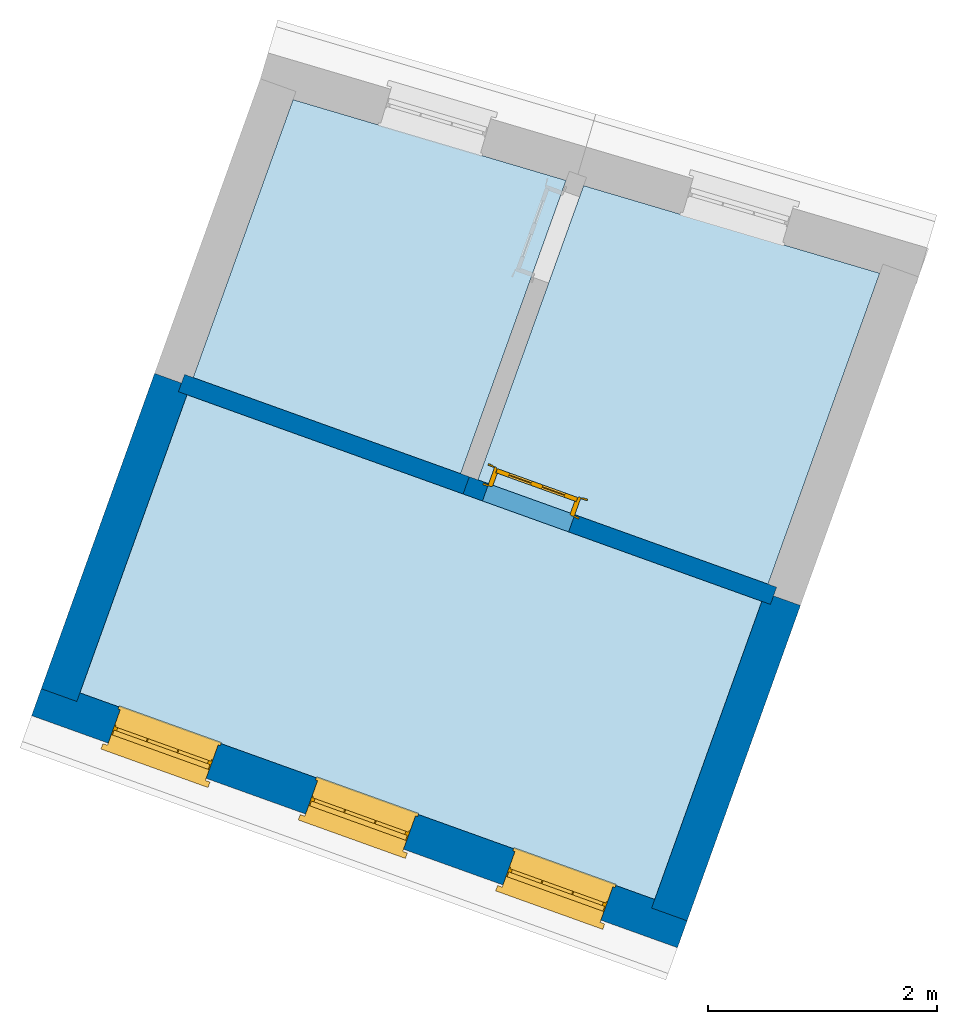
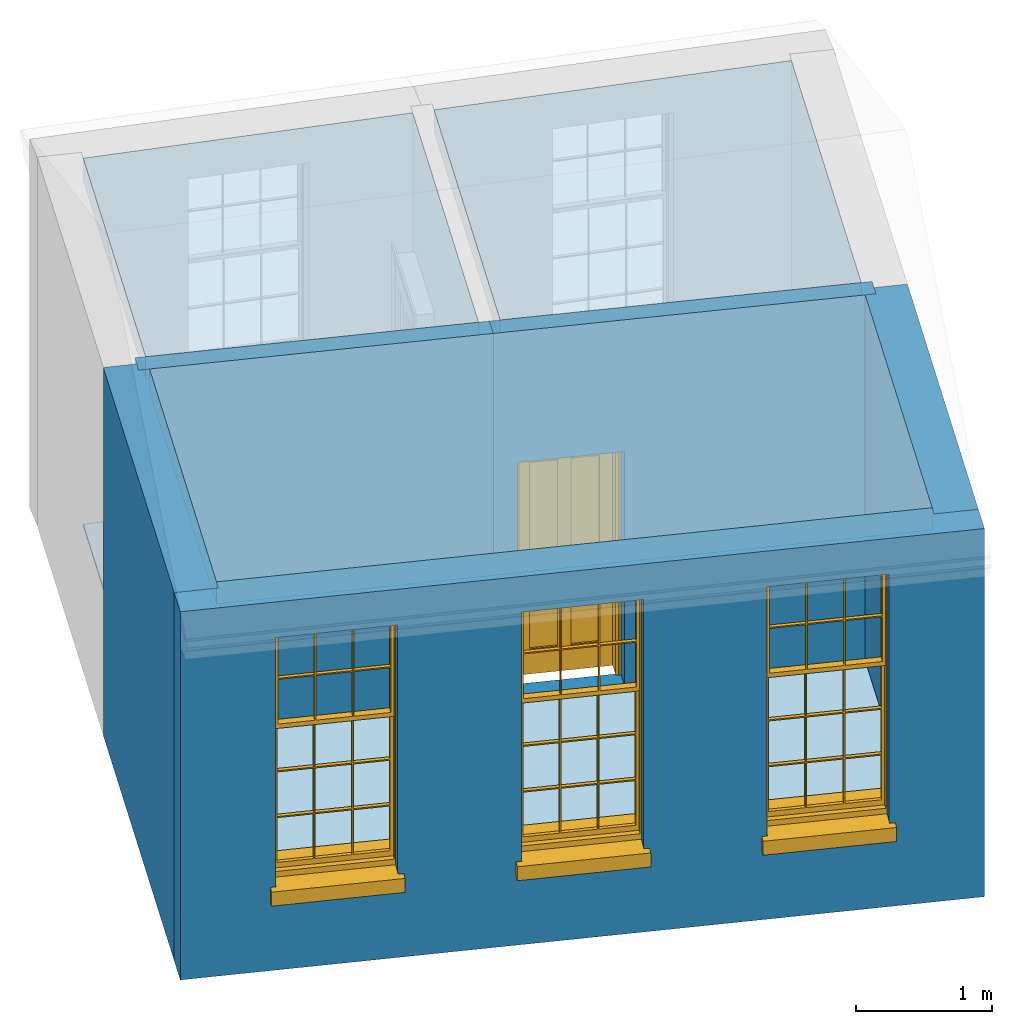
# One storey, part 1 of 3: 5 slabs, 5 walls, 3 windows, 1 door, 4 openings.
"""IFC4 building model written with IfcOpenShell, lengths in metres."""

from ifc_helpers import new_model, si_unit, frame, origin, origin_with_axes, place, context, subcontext, project, spatial, polyline, outline, extrude, faceted_brep, source, transform, mapped, material, layer, layer_set, layer_usage, type_object, type_shapes, element, fill, save


model = new_model("IFC4")

# Units and contexts
model_context = context("Model", 3, world=origin_with_axes())
body_context = subcontext(model_context, "Body", "Model", "MODEL_VIEW")
ifc_project = project(units=[si_unit("PLANEANGLEUNIT", "RADIAN"), si_unit("MASSUNIT", "GRAM", prefix="KILO"), si_unit("FORCEUNIT", "NEWTON", prefix="KILO"), si_unit("LENGTHUNIT", "METRE"), si_unit("AREAUNIT", "SQUARE_METRE"), si_unit("VOLUMEUNIT", "CUBIC_METRE")], contexts=[model_context, model_context])

# Sites, building, storey
site_1_placement = place(None, origin_with_axes())
site_1 = spatial("IfcSite", under=ifc_project, at=site_1_placement, Name="Tamar")
site_2_placement = place(site_1_placement, origin_with_axes())
site_2 = spatial("IfcSite", under=site_1, at=site_2_placement, Name="Site plot-24", CompositionType="ELEMENT")
building_placement = place(None, origin_with_axes())
building = spatial("IfcBuilding", under=site_2, at=building_placement, Name="Building plot-24", CompositionType="ELEMENT")
storey_placement = place(None, frame((0.0, 0.0, 32.0), z_axis=(0.0, 0.0, 1.0), x_axis=(1.0, 0.0, 0.0)))
storey = spatial("IfcBuildingStorey", under=building, at=storey_placement, Name="plot-24 2", CompositionType="ELEMENT", Elevation=32.0)

# Slabs
slab_1_placement = place(storey_placement, frame((272.596512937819, 277.129814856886, 3.1)))
element("IfcSlab", 1, at=slab_1_placement, inside=storey, Name="My Slab", ObjectType="Slab", PredefinedType="FLOOR", context=body_context, shape_type="SweptSolid", body=[
    extrude(outline(polyline([(0.0, 0.0), (2.53637243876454, -0.911403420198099), (3.51288097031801, 1.80615202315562), (0.924257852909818, 2.57214543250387), (0.0, 0.0)])), origin_with_axes(), (0.0, 0.0, 1.0), 0.2),
])
slab_2_placement = place(storey_placement, frame((272.445938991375, 277.183921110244, 3.1)))
element("IfcSlab", 2, at=slab_2_placement, inside=storey, Name="My Slab", ObjectType="Slab", PredefinedType="FLOOR", context=body_context, shape_type="SweptSolid", body=[
    extrude(outline(polyline([(0.0, 0.0), (0.921155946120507, 2.56351304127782), (-1.46547668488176, 3.26973591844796), (-2.33845907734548, 0.840286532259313), (0.0, 0.0)])), origin_with_axes(), (0.0, 0.0, 1.0), 0.2),
])
slab_3_placement = place(storey_placement, frame((272.445938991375, 277.183921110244, 0.0)))
element("IfcSlab", 3, at=slab_3_placement, inside=storey, Name="My Slab", ObjectType="Slab", PredefinedType="FLOOR", context=body_context, shape_type="SweptSolid", body=[
    extrude(outline(polyline([(0.0, 0.0), (0.921155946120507, 2.56351304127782), (-1.46547668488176, 3.26973591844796), (-2.33845907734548, 0.840286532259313), (0.0, 0.0)])), origin_with_axes(), (0.0, 0.0, 1.0), 0.02),
])
slab_4_placement = place(storey_placement, frame((269.11697327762, 275.26769644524, 3.1)))
element("IfcSlab", 4, at=slab_4_placement, inside=storey, Name="My Slab", ObjectType="Slab", PredefinedType="FLOOR", context=body_context, shape_type="SweptSolid", body=[
    extrude(outline(polyline([(0.0, 0.0), (5.02540546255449, -1.80579620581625), (5.96180584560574, 0.800141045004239), (0.93640038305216, 2.60593725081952), (0.0, 0.0)])), origin_with_axes(), (0.0, 0.0, 1.0), 0.2),
])
slab_5_placement = place(storey_placement, frame((269.11697327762, 275.26769644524, 0.0)))
element("IfcSlab", 5, at=slab_5_placement, inside=storey, Name="My Slab", ObjectType="Slab", PredefinedType="FLOOR", context=body_context, shape_type="SweptSolid", body=[
    extrude(outline(polyline([(0.0, 0.0), (5.02540546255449, -1.80579620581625), (5.96180584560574, 0.800141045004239), (0.93640038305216, 2.60593725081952), (0.0, 0.0)])), origin_with_axes(), (0.0, 0.0, 1.0), 0.02),
])

# Wall, openings, windows
ifc_material_1 = material(Name="Masonry")
ifc_layer_1 = layer(ifc_material_1, 0.33, ventilated=False)
ifc_layer_set_1 = layer_set([ifc_layer_1], Name="exterior_0.08_0.25")
ifc_layer_usage_1 = layer_usage(ifc_layer_set_1, "AXIS2", "POSITIVE", -0.25)
wall_type_1 = type_object("IfcWallType", Name="exterior_0.08_0.25", PredefinedType="SOLIDWALL", material=ifc_layer_set_1)
wall_1_placement = place(storey_placement, frame((269.014633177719, 275.219462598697, 0.0), z_axis=(0.0, 0.0, 1.0), x_axis=(0.941087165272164, -0.338164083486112, 0.0)))
wall_1 = element("IfcWall", 6, at=wall_1_placement, inside=storey, type_object=wall_type_1, material=ifc_layer_usage_1, Name="exterior", context=body_context, shape_type="SweptSolid", body=[
    extrude(outline(polyline([(-0.250000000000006, 0.0799999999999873), (-0.250000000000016, -0.249999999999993), (5.75000000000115, -0.250000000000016), (5.75000000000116, 0.079999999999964), (-0.250000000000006, 0.0799999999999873)])), origin_with_axes(), (0.0, 0.0, 1.0), 3.3),
])
opening_1_placement = place(wall_1_placement, frame((0.461666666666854, 0.0, 0.75)))
opening_1 = element("IfcOpeningElement", 7, at=opening_1_placement, cuts=wall_1, Name="My Opening", ObjectType="Opening", context=body_context, shape_type="SweptSolid", body=[
    extrude(outline(polyline([(0.0, -0.270000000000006), (0.910000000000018, -0.27000000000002), (0.910000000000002, 1.1), (-1.5931700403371e-14, 1.10000000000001), (0.0, -0.270000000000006)])), origin_with_axes(), (0.0, 0.0, 1.0), 2.23),
])
opening_2_placement = place(wall_1_placement, frame((2.2950000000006, 0.0, 0.75)))
opening_2 = element("IfcOpeningElement", 8, at=opening_2_placement, cuts=wall_1, Name="My Opening", ObjectType="Opening", context=body_context, shape_type="SweptSolid", body=[
    extrude(outline(polyline([(0.0, -0.270000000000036), (0.909999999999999, -0.269999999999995), (0.909999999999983, 1.10000000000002), (-1.59872115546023e-14, 1.09999999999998), (0.0, -0.270000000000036)])), origin_with_axes(), (0.0, 0.0, 1.0), 2.23),
])
opening_3_placement = place(wall_1_placement, frame((4.12833333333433, 0.0, 0.75)))
opening_3 = element("IfcOpeningElement", 9, at=opening_3_placement, cuts=wall_1, Name="My Opening", ObjectType="Opening", context=body_context, shape_type="SweptSolid", body=[
    extrude(outline(polyline([(0.0, -0.270000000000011), (0.910000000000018, -0.270000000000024), (0.910000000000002, 1.1), (-1.59872115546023e-14, 1.10000000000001), (0.0, -0.270000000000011)])), origin_with_axes(), (0.0, 0.0, 1.0), 2.23),
])
window_type = type_object("IfcWindowType", Name="sash_big_taller", PartitioningType="DOUBLE_PANEL_HORIZONTAL", PredefinedType="NOTDEFINED")
shared_shape_1 = source(origin(), body_context, "Body", "Brep", [
    faceted_brep([(0.033125, 0.145, 1.385209), (0.01, 0.145, 1.385209), (0.033125, 0.145, 1.786042), (0.876875, 0.145, 1.385209), (0.876875, 0.145, 1.786042), (0.9, 0.145, 1.385209), (0.876875, 0.145, 1.796042), (0.876875, 0.145, 2.196875), (0.9, 0.145, 2.22), (0.033125, 0.145, 2.196875), (0.033125, 0.145, 1.796042), (0.01, 0.145, 2.22), (0.876875, 0.115, 1.786042), (0.876875, 0.115, 1.385209), (0.9, 0.115, 1.347084), (0.033125, 0.115, 2.196875), (0.01, 0.115, 2.22), (0.033125, 0.115, 1.796042), (0.01, 0.115, 1.347084), (0.033125, 0.115, 1.385209), (0.033125, 0.115, 1.786042), (0.876875, 0.115, 2.196875), (0.876875, 0.115, 1.796042), (0.9, 0.115, 2.22), (0.033125, 0.145, 1.347084), (0.01, 0.145, 1.347084), (0.033125, 0.145, 0.94625), (0.876875, 0.145, 1.347084), (0.876875, 0.145, 0.94625), (0.9, 0.145, 1.347084), (0.876875, 0.145, 0.52625), (0.876875, 0.145, 0.125417), (0.9, 0.145, 0.077167), (0.033125, 0.145, 0.125417), (0.033125, 0.145, 0.52625), (0.01, 0.145, 0.077167), (-0.0425, 0.0, 0.01), (-0.0425, -0.05, 0.001667), (0.0, 0.0, 0.01), (0.9525, 0.0, 0.01), (0.91, 0.0, 0.01), (0.9525, -0.05, 0.001667), (-0.02, 0.33, 0.077167), (0.0, 0.33, 0.077167), (-0.02, 0.36, 0.077167), (0.0, 0.19, 0.077167), (0.01, 0.19, 0.077167), (0.91, 0.19, 0.077167), (0.91, 0.33, 0.077167), (0.9, 0.19, 0.077167), (0.93, 0.33, 0.077167), (0.93, 0.36, 0.077167), (0.01, 0.175, 1.385209), (0.9, 0.175, 1.385209), (0.876875, 0.175, 0.125417), (0.876875, 0.175, 0.52625), (0.9, 0.175, 0.077167), (0.876875, 0.175, 0.94625), (0.876875, 0.175, 1.347084), (0.033125, 0.175, 0.125417), (0.01, 0.175, 0.077167), (0.033125, 0.175, 0.52625), (0.033125, 0.175, 1.347084), (0.033125, 0.175, 0.94625), (-0.02, 0.33, 0.052167), (-0.02, 0.36, 0.052167), (0.93, 0.36, 0.052167), (0.93, 0.33, 0.052167), (0.91, 0.33, 0.052167), (0.0, 0.33, 0.052167), (0.91, 0.1, 0.026667), (0.0, 0.1, 0.026667), (-0.0425, -0.05, -0.123333), (0.9525, -0.05, -0.123333), (-0.0425, 0.0, -0.123333), (0.9525, 0.0, -0.123333), (0.01, 0.19, 2.22), (0.9, 0.19, 2.22), (0.0, 0.19, 2.23), (0.91, 0.19, 2.23), (0.01, 0.1, 0.077167), (0.9, 0.1, 0.077167), (0.592292, 0.145, 0.125417), (0.592292, 0.175, 0.125417), (0.317708, 0.175, 0.125417), (0.317708, 0.145, 0.125417), (0.592292, 0.145, 0.53625), (0.317708, 0.145, 0.53625), (0.317708, 0.145, 0.52625), (0.592292, 0.145, 0.52625), (0.592292, 0.175, 0.53625), (0.317708, 0.175, 0.53625), (0.592292, 0.115, 1.796042), (0.592292, 0.145, 1.796042), (0.317708, 0.145, 1.796042), (0.317708, 0.115, 1.796042), (0.317708, 0.115, 1.786042), (0.592292, 0.115, 1.786042), (0.317708, 0.145, 1.786042), (0.592292, 0.145, 1.786042), (0.602292, 0.115, 1.786042), (0.592292, 0.115, 1.385209), (0.602292, 0.115, 1.385209), (0.602292, 0.145, 1.385209), (0.592292, 0.145, 1.385209), (0.602292, 0.145, 1.786042), (0.876875, 0.145, 0.53625), (0.876875, 0.175, 0.53625), (0.602292, 0.175, 0.53625), (0.602292, 0.145, 0.53625), (0.317708, 0.175, 0.52625), (0.307708, 0.175, 0.125417), (0.307708, 0.175, 0.52625), (0.602292, 0.175, 0.52625), (0.602292, 0.175, 0.125417), (0.592292, 0.175, 0.52625), (0.307708, 0.175, 0.53625), (0.033125, 0.175, 0.53625), (0.317708, 0.175, 1.347084), (0.317708, 0.175, 0.94625), (0.307708, 0.175, 0.94625), (0.307708, 0.175, 1.347084), (0.602292, 0.175, 1.347084), (0.602292, 0.175, 0.94625), (0.592292, 0.175, 0.94625), (0.592292, 0.175, 1.347084), (0.307708, 0.145, 0.52625), (0.307708, 0.145, 0.125417), (0.307708, 0.145, 0.53625), (0.033125, 0.145, 0.53625), (0.307708, 0.145, 1.347084), (0.307708, 0.145, 0.94625), (0.592292, 0.145, 1.347084), (0.592292, 0.145, 0.94625), (0.317708, 0.145, 0.94625), (0.317708, 0.145, 1.347084), (0.602292, 0.145, 0.94625), (0.602292, 0.145, 1.347084), (0.602292, 0.145, 0.52625), (0.602292, 0.145, 0.125417), (0.307708, 0.115, 1.796042), (0.307708, 0.115, 1.786042), (0.307708, 0.115, 1.385209), (0.317708, 0.115, 1.385209), (0.317708, 0.115, 2.196875), (0.307708, 0.115, 2.196875), (0.602292, 0.115, 2.196875), (0.592292, 0.115, 2.196875), (0.602292, 0.115, 1.796042), (0.602292, 0.145, 1.796042), (0.307708, 0.145, 1.796042), (0.307708, 0.145, 2.196875), (0.317708, 0.145, 2.196875), (0.592292, 0.145, 2.196875), (0.602292, 0.145, 2.196875), (0.307708, 0.145, 1.786042), (0.317708, 0.145, 1.385209), (0.307708, 0.145, 1.385209), (0.876875, 0.175, 0.93625), (0.033125, 0.175, 0.93625), (0.033125, 0.145, 0.93625), (0.876875, 0.145, 0.93625), (0.91, 0.1, 2.23), (0.9, 0.1, 2.22), (0.01, 0.1, 2.22), (0.0, 0.1, 2.23), (0.91, 0.0, 0.0), (0.0, 0.0, 0.0), (0.91, 0.33, 0.0), (0.0, 0.33, 0.0), (0.317708, 0.145, 0.93625), (0.592292, 0.145, 0.93625), (0.317708, 0.175, 0.93625), (0.307708, 0.175, 0.93625), (0.602292, 0.175, 0.93625), (0.592292, 0.175, 0.93625), (0.307708, 0.145, 0.93625), (0.602292, 0.145, 0.93625)], [[[0, 1, 2]], [[3, 4, 5]], [[6, 7, 8]], [[9, 10, 11]], [[12, 13, 14]], [[15, 16, 17]], [[18, 19, 20]], [[21, 22, 23]], [[24, 25, 26]], [[27, 28, 29]], [[30, 31, 32]], [[33, 34, 35]], [[14, 27, 29]], [[25, 24, 18]], [[36, 37, 38]], [[39, 40, 41]], [[42, 43, 44]], [[45, 46, 43]], [[47, 48, 49]], [[50, 51, 48]], [[1, 0, 52]], [[5, 53, 3]], [[54, 55, 56]], [[57, 58, 53]], [[59, 60, 61]], [[62, 63, 52]], [[48, 43, 46, 49]], [[51, 44, 43, 48]], [[64, 42, 44, 65]], [[65, 44, 51, 66]], [[66, 51, 50, 67]], [[65, 66, 68, 69]], [[60, 56, 49, 46]], [[70, 71, 38, 40]], [[37, 41, 40, 38]], [[37, 72, 73, 41]], [[74, 75, 73, 72]], [[8, 11, 76, 77]], [[76, 78, 79, 77]], [[32, 35, 80, 81]], [[81, 80, 71, 70]], [[82, 83, 84, 85]], [[86, 87, 88, 89]], [[86, 90, 91, 87]], [[92, 93, 94, 95]], [[92, 95, 96, 97]], [[96, 98, 99, 97]], [[100, 97, 101, 102]], [[103, 104, 99, 105]], [[97, 99, 104, 101]], [[102, 103, 105, 100]], [[106, 107, 108, 109]], [[110, 84, 111, 112]], [[113, 114, 83, 115]], [[116, 112, 61, 117]], [[90, 115, 110, 91]], [[118, 119, 120, 121]], [[122, 123, 124, 125]], [[113, 108, 107, 55]], [[126, 112, 111, 127]], [[34, 61, 112, 126]], [[89, 115, 83, 82]], [[88, 110, 115, 89]], [[85, 84, 110, 88]], [[128, 116, 117, 129]], [[130, 121, 120, 131]], [[132, 125, 124, 133]], [[134, 119, 118, 135]], [[136, 123, 122, 137]], [[138, 113, 55, 30]], [[139, 114, 113, 138]], [[138, 30, 106, 109]], [[88, 126, 127, 85]], [[138, 89, 82, 139]], [[137, 132, 133, 136]], [[128, 129, 34, 126]], [[135, 130, 131, 134]], [[140, 17, 20, 141]], [[96, 141, 142, 143]], [[144, 145, 140, 95]], [[146, 147, 92, 148]], [[100, 12, 22, 148]], [[149, 6, 4, 105]], [[94, 150, 151, 152]], [[149, 93, 153, 154]], [[99, 98, 94, 93]], [[155, 2, 10, 150]], [[156, 157, 155, 98]], [[141, 155, 157, 142]], [[20, 2, 155, 141]], [[143, 156, 98, 96]], [[140, 150, 10, 17]], [[145, 151, 150, 140]], [[147, 153, 93, 92]], [[95, 94, 152, 144]], [[22, 6, 149, 148]], [[148, 149, 154, 146]], [[100, 105, 4, 12]], [[109, 86, 89, 138]], [[108, 113, 115, 90]], [[91, 110, 112, 116]], [[87, 128, 126, 88]], [[97, 100, 148, 92]], [[141, 96, 95, 140]], [[98, 155, 150, 94]], [[105, 99, 93, 149]], [[143, 101, 104, 156]], [[135, 118, 125, 132]], [[144, 152, 153, 147]], [[127, 111, 59, 33]], [[15, 9, 151, 145]], [[146, 154, 7, 21]], [[31, 54, 114, 139]], [[36, 74, 72, 37]], [[39, 41, 73, 75]], [[18, 14, 101, 143]], [[23, 16, 144, 147]], [[83, 56, 60, 84]], [[52, 53, 125, 118]], [[53, 52, 156, 104]], [[11, 8, 153, 152]], [[14, 18, 135, 132]], [[2, 1, 11, 10]], [[8, 5, 4, 6]], [[57, 53, 56, 158]], [[60, 52, 63, 159]], [[26, 25, 35, 160]], [[32, 29, 28, 161]], [[14, 23, 22, 12]], [[18, 20, 17, 16]], [[19, 0, 2, 20]], [[17, 10, 9, 15]], [[12, 4, 3, 13]], [[21, 7, 6, 22]], [[27, 58, 57, 28]], [[30, 55, 54, 31]], [[33, 59, 61, 34]], [[26, 63, 62, 24]], [[5, 8, 77, 53]], [[76, 11, 1, 52]], [[46, 45, 78, 76]], [[49, 77, 79, 47]], [[70, 162, 163, 81]], [[71, 80, 164, 165]], [[19, 142, 157, 0]], [[102, 13, 3, 103]], [[121, 130, 24, 62]], [[29, 32, 81, 14]], [[80, 35, 25, 18]], [[60, 46, 76, 52]], [[77, 49, 56, 53]], [[23, 14, 81, 163]], [[16, 164, 80, 18]], [[35, 85, 127]], [[127, 33, 35]], [[139, 82, 32]], [[32, 31, 139]], [[32, 82, 85, 35]], [[102, 101, 14]], [[14, 13, 102]], [[18, 143, 142]], [[142, 19, 18]], [[146, 21, 23]], [[23, 147, 146]], [[16, 15, 145]], [[145, 144, 16]], [[11, 152, 151]], [[151, 9, 11]], [[154, 153, 8]], [[8, 7, 154]], [[23, 163, 164, 16]], [[162, 165, 164, 163]], [[52, 118, 121]], [[121, 62, 52]], [[125, 53, 122]], [[58, 122, 53]], [[27, 137, 122, 58]], [[56, 83, 114]], [[114, 54, 56]], [[111, 84, 60]], [[60, 59, 111]], [[137, 27, 14]], [[14, 132, 137]], [[130, 135, 18]], [[18, 24, 130]], [[157, 156, 52]], [[52, 0, 157]], [[103, 3, 53]], [[53, 104, 103]], [[79, 78, 165, 162]], [[78, 45, 71, 165]], [[162, 70, 47, 79]], [[166, 75, 74, 167]], [[68, 66, 67]], [[48, 68, 67, 50]], [[69, 64, 65]], [[42, 64, 69, 43]], [[69, 68, 168, 169]], [[70, 68, 48, 47]], [[166, 168, 68, 70]], [[43, 69, 71, 45]], [[69, 169, 167, 71]], [[168, 166, 167, 169]], [[38, 167, 74, 36]], [[71, 167, 38]], [[39, 75, 166, 40]], [[40, 166, 70]], [[133, 134, 170, 171]], [[133, 124, 119, 134]], [[28, 57, 123, 136]], [[172, 91, 116, 173]], [[174, 108, 90, 175]], [[120, 173, 159, 63]], [[124, 175, 172, 119]], [[174, 123, 57, 158]], [[176, 173, 116, 128]], [[160, 159, 173, 176]], [[171, 175, 90, 86]], [[170, 172, 175, 171]], [[87, 91, 172, 170]], [[131, 120, 63, 26]], [[177, 174, 158, 161]], [[109, 108, 174, 177]], [[177, 161, 28, 136]], [[170, 176, 128, 87]], [[177, 171, 86, 109]], [[131, 26, 160, 176]], [[136, 133, 171, 177]], [[123, 174, 175, 124]], [[119, 172, 173, 120]], [[134, 131, 176, 170]], [[129, 117, 159, 160]], [[161, 158, 107, 106]], [[35, 34, 129]], [[35, 129, 160]], [[32, 106, 30]], [[32, 161, 106]], [[56, 55, 107]], [[56, 107, 158]], [[60, 117, 61]], [[60, 159, 117]]]),
])
type_shapes(window_type, [shared_shape_1])
window_1_placement = place(storey_placement, frame((269.357797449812, 274.809249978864, 0.75), z_axis=(0.0, 0.0, 1.0), x_axis=(0.856389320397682, -0.307729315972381, 0.0)))
window_1 = element("IfcWindow", 10, at=window_1_placement, inside=storey, type_object=window_type, Name="bedroom outside window", OverallHeight=2.23, OverallWidth=0.91, context=body_context, shape_type="MappedRepresentation", body=[
    mapped(shared_shape_1, transform((0.0, 0.0, 0.0), scale=1.0)),
])
fill(opening_1, window_1)
window_2_placement = place(storey_placement, frame((271.083123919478, 274.189282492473, 0.75), z_axis=(0.0, 0.0, 1.0), x_axis=(0.856389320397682, -0.307729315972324, 0.0)))
window_2 = element("IfcWindow", 11, at=window_2_placement, inside=storey, type_object=window_type, Name="bedroom outside window", OverallHeight=2.23, OverallWidth=0.91, context=body_context, shape_type="MappedRepresentation", body=[
    mapped(shared_shape_1, transform((0.0, 0.0, 0.0), scale=1.0)),
])
fill(opening_2, window_2)
window_3_placement = place(storey_placement, frame((272.808450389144, 273.569315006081, 0.75), z_axis=(0.0, 0.0, 1.0), x_axis=(0.856389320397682, -0.307729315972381, 0.0)))
window_3 = element("IfcWindow", 12, at=window_3_placement, inside=storey, type_object=window_type, Name="bedroom outside window", OverallHeight=2.23, OverallWidth=0.91, context=body_context, shape_type="MappedRepresentation", body=[
    mapped(shared_shape_1, transform((0.0, 0.0, 0.0), scale=1.0)),
])
fill(opening_3, window_3)

# Walls
ifc_material_2 = material(Name="Masonry")
ifc_layer_2 = layer(ifc_material_2, 0.33, ventilated=False)
ifc_layer_set_2 = layer_set([ifc_layer_2], Name="party_0.08_0.25")
ifc_layer_usage_2 = layer_usage(ifc_layer_set_2, "AXIS2", "POSITIVE", -0.25)
wall_type_2 = type_object("IfcWallType", Name="party_0.08_0.25", PredefinedType="SOLIDWALL", material=ifc_layer_set_2)
wall_2_placement = place(storey_placement, frame((270.005139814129, 277.97597379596, 0.0), z_axis=(0.0, 0.0, 1.0), x_axis=(-0.338164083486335, -0.941087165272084, 0.0)))
element("IfcWall", 13, at=wall_2_placement, inside=storey, type_object=wall_type_2, material=ifc_layer_usage_2, Name="party", context=body_context, shape_type="SweptSolid", body=[
    extrude(outline(polyline([(-2.03362180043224e-14, 0.0799999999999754), (1.00823558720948e-13, -0.249999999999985), (2.92907107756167, -0.250000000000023), (2.92907107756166, 0.0799999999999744), (-2.03362180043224e-14, 0.0799999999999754)])), origin_with_axes(), (0.0, 0.0, 1.0), 3.3),
])
wall_3_placement = place(storey_placement, frame((274.190612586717, 273.359560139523, 0.0), z_axis=(0.0, 0.0, 1.0), x_axis=(0.338164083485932, 0.941087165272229, 0.0)))
element("IfcWall", 14, at=wall_3_placement, inside=storey, type_object=wall_type_2, material=ifc_layer_usage_2, Name="party", context=body_context, shape_type="SweptSolid", body=[
    extrude(outline(polyline([(1.40025904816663e-14, 0.0799999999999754), (-6.31296315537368e-15, -0.249999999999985), (2.92907107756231, -0.249999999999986), (2.92907107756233, 0.0799999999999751), (1.40025904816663e-14, 0.0799999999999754)])), origin_with_axes(), (0.0, 0.0, 1.0), 3.3),
])

# Wall, opening, door
ifc_material_3 = material(Name="Masonry")
ifc_layer_3 = layer(ifc_material_3, 0.16, ventilated=False)
ifc_layer_set_3 = layer_set([ifc_layer_3], Name="interior_0.08_0.08")
ifc_layer_usage_3 = layer_usage(ifc_layer_set_3, "AXIS2", "POSITIVE", -0.08)
wall_type_3 = type_object("IfcWallType", Name="interior_0.08_0.08", PredefinedType="SOLIDWALL", material=ifc_layer_set_3)
wall_4_placement = place(storey_placement, frame((272.494172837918, 277.081581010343, 0.0), z_axis=(0.0, 0.0, 1.0), x_axis=(0.941087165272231, -0.338164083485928, 0.0)))
wall_4 = element("IfcWall", 15, at=wall_4_placement, inside=storey, type_object=wall_type_3, material=ifc_layer_usage_3, Name="interior", context=body_context, shape_type="SweptSolid", body=[
    extrude(outline(polyline([(1.43223347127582e-14, 0.0799999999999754), (-1.43676590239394e-14, -0.0799999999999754), (2.85515145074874, -0.0799999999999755), (2.85515145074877, 0.0799999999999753), (1.43223347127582e-14, 0.0799999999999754)])), origin_with_axes(), (0.0, 0.0, 1.0), 3.3),
])
opening_4_placement = place(wall_4_placement, frame((0.180000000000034, 0.0, 0.0200000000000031)))
opening_4 = element("IfcOpeningElement", 16, at=opening_4_placement, cuts=wall_4, Name="My Opening", ObjectType="Opening", context=body_context, shape_type="SweptSolid", body=[
    extrude(outline(polyline([(0.0, -0.0999999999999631), (0.800000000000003, -0.0999999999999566), (0.799999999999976, 1.10000000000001), (-2.67563748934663e-14, 1.1), (0.0, -0.0999999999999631)])), origin_with_axes(), (0.0, 0.0, 1.0), 2.1),
])
door_type = type_object("IfcDoorType", Name="door_inside", OperationType="SINGLE_SWING_LEFT", PredefinedType="NOTDEFINED")
shared_shape_2 = source(origin(), body_context, "Body", "Brep", [
    faceted_brep([(0.773, 0.33, 1.895), (0.66, 0.33, 1.895), (0.66, 0.33, 2.073), (0.773, 0.33, 2.073), (0.773, 0.33, 0.82), (0.66, 0.33, 0.82), (0.45, 0.33, 1.895), (0.45, 0.33, 2.073), (0.773, 0.33, 0.62), (0.66, 0.33, 0.62), (0.66, 0.315, 0.82), (0.66, 0.315, 1.895), (0.45, 0.315, 1.895), (0.35, 0.33, 1.895), (0.35, 0.33, 2.073), (0.773, 0.33, 0.225), (0.66, 0.33, 0.225), (0.45, 0.33, 0.62), (0.45, 0.33, 0.82), (0.45, 0.315, 0.82), (0.35, 0.33, 0.82), (0.14, 0.33, 2.073), (0.14, 0.33, 1.895), (0.773, 0.33, 0.0), (0.66, 0.33, 0.0), (0.66, 0.315, 0.225), (0.66, 0.315, 0.62), (0.45, 0.315, 0.62), (0.35, 0.33, 0.62), (0.35, 0.315, 0.82), (0.35, 0.315, 1.895), (0.14, 0.315, 1.895), (0.027, 0.33, 2.073), (0.027, 0.33, 1.895), (0.773, 0.292, 0.0), (0.66, 0.292, 0.0), (0.45, 0.33, 0.0), (0.45, 0.33, 0.225), (0.45, 0.315, 0.225), (0.35, 0.33, 0.225), (0.14, 0.33, 0.82), (0.14, 0.33, 0.62), (0.14, 0.315, 0.82), (0.027, 0.33, 0.82), (0.773, 0.292, 0.225), (0.66, 0.292, 0.225), (0.45, 0.292, 0.0), (0.35, 0.33, 0.0), (0.35, 0.315, 0.225), (0.35, 0.315, 0.62), (0.14, 0.315, 0.62), (0.027, 0.33, 0.62), (0.773, 0.292, 0.62), (0.66, 0.292, 0.62), (0.45, 0.292, 0.225), (0.35, 0.292, 0.0), (0.14, 0.33, 0.225), (0.14, 0.33, 0.0), (0.14, 0.315, 0.225), (0.027, 0.33, 0.225), (0.773, 0.292, 0.82), (0.66, 0.292, 0.82), (0.66, 0.307, 0.62), (0.66, 0.307, 0.225), (0.45, 0.307, 0.225), (0.35, 0.292, 0.225), (0.14, 0.292, 0.0), (0.027, 0.33, 0.0), (0.773, 0.292, 1.895), (0.66, 0.292, 1.895), (0.45, 0.292, 0.62), (0.45, 0.292, 0.82), (0.45, 0.307, 0.62), (0.35, 0.292, 0.62), (0.14, 0.292, 0.225), (0.027, 0.292, 0.0), (0.773, 0.292, 2.073), (0.66, 0.292, 2.073), (0.66, 0.307, 1.895), (0.66, 0.307, 0.82), (0.45, 0.307, 0.82), (0.35, 0.292, 0.82), (0.35, 0.307, 0.62), (0.35, 0.307, 0.225), (0.14, 0.307, 0.225), (0.027, 0.292, 0.225), (0.45, 0.292, 1.895), (0.45, 0.292, 2.073), (0.45, 0.307, 1.895), (0.35, 0.292, 1.895), (0.14, 0.292, 0.82), (0.14, 0.292, 0.62), (0.14, 0.307, 0.62), (0.027, 0.292, 0.62), (0.35, 0.292, 2.073), (0.35, 0.307, 1.895), (0.35, 0.307, 0.82), (0.14, 0.307, 0.82), (0.027, 0.292, 0.82), (0.14, 0.292, 2.073), (0.14, 0.292, 1.895), (0.14, 0.307, 1.895), (0.027, 0.292, 1.895), (0.027, 0.292, 2.073), (0.02, 0.335, 0.0), (0.005, 0.34, 0.0), (0.005, 0.34, 2.095), (0.02, 0.335, 2.08), (0.02, 0.33, 0.0), (0.0, 0.335, 0.0), (0.0, 0.335, 2.1), (0.795, 0.34, 2.095), (0.78, 0.335, 2.08), (0.02, 0.33, 2.08), (0.0, 0.33, 0.0), (-0.032, 0.345, 0.0), (-0.032, 0.345, 2.132), (0.8, 0.335, 2.1), (0.795, 0.34, 0.0), (0.78, 0.335, 0.0), (0.78, 0.33, 2.08), (0.04, 0.29, 0.0), (0.025, 0.29, 0.0), (0.025, 0.29, 2.075), (0.04, 0.29, 2.06), (-0.04, 0.34, 0.0), (-0.04, 0.34, 2.14), (0.832, 0.345, 2.132), (0.8, 0.335, 0.0), (0.78, 0.33, 0.0), (0.8, 0.33, 0.0), (0.86, 0.33, 0.0), (0.86, 0.33, 2.16), (0.8, 0.33, 2.1), (-0.06, 0.33, 2.16), (0.0, 0.33, 2.1), (-0.06, 0.33, 0.0), (-0.04, 0.345, 0.0), (-0.04, 0.345, 2.14), (0.84, 0.34, 2.14), (0.832, 0.345, 0.0), (0.84, 0.34, 0.0), (0.86, 0.345, 0.0), (0.86, 0.345, 2.16), (-0.06, 0.345, 2.16), (-0.06, 0.345, 0.0), (0.84, 0.345, 0.0), (0.84, 0.345, 2.14), (-0.025, 0.155, 0.0), (-0.025, 0.16, 0.0), (-0.025, 0.16, 2.125), (-0.025, 0.155, 2.125), (-0.017, 0.155, 0.0), (-0.017, 0.155, 2.117), (0.825, 0.16, 2.125), (0.825, 0.155, 2.125), (0.825, 0.155, 0.0), (0.845, 0.155, 0.0), (-0.045, 0.155, 2.145), (-0.045, 0.155, 0.0), (0.845, 0.155, 2.145), (0.015, 0.165, 0.0), (0.015, 0.165, 2.085), (0.817, 0.155, 2.117), (0.825, 0.16, 0.0), (0.845, 0.17, 0.0), (0.845, 0.17, 2.145), (-0.045, 0.17, 2.145), (-0.045, 0.17, 0.0), (0.02, 0.16, 0.0), (0.02, 0.16, 2.08), (0.785, 0.165, 2.085), (0.817, 0.155, 0.0), (0.8, 0.17, 0.0), (0.8, 0.17, 2.1), (0.0, 0.17, 2.1), (0.0, 0.17, 0.0), (0.035, 0.165, 0.0), (0.035, 0.165, 2.065), (0.78, 0.16, 2.08), (0.785, 0.165, 0.0), (0.775, 0.29, 2.075), (0.76, 0.29, 2.06), (0.035, 0.17, 2.065), (0.035, 0.17, 0.0), (0.765, 0.165, 2.065), (0.78, 0.16, 0.0), (0.765, 0.17, 0.0), (0.765, 0.17, 2.065), (0.765, 0.165, 0.0), (0.04, 0.17, 2.06), (0.04, 0.17, 0.0), (0.76, 0.17, 2.06), (0.76, 0.17, 0.0), (0.76, 0.29, 0.0), (0.775, 0.29, 0.0), (0.025, 0.33, 0.0), (0.025, 0.33, 2.075), (0.775, 0.33, 0.0), (0.775, 0.33, 2.075)], [[[0, 1, 2, 3]], [[1, 0, 4, 5]], [[1, 6, 7, 2]], [[8, 9, 5, 4]], [[1, 5, 10, 11]], [[6, 1, 11, 12]], [[6, 13, 14, 7]], [[15, 16, 9, 8]], [[9, 17, 18, 5]], [[5, 18, 19, 10]], [[10, 19, 12, 11]], [[18, 6, 12, 19]], [[18, 20, 13, 6]], [[21, 14, 13, 22]], [[23, 24, 16, 15]], [[9, 16, 25, 26]], [[17, 9, 26, 27]], [[17, 28, 20, 18]], [[13, 20, 29, 30]], [[22, 13, 30, 31]], [[32, 21, 22, 33]], [[34, 35, 24, 23]], [[24, 36, 37, 16]], [[16, 37, 38, 25]], [[25, 38, 27, 26]], [[37, 17, 27, 38]], [[37, 39, 28, 17]], [[40, 20, 28, 41]], [[20, 40, 42, 29]], [[31, 30, 29, 42]], [[40, 22, 31, 42]], [[33, 22, 40, 43]], [[35, 34, 44, 45]], [[35, 46, 36, 24]], [[36, 47, 39, 37]], [[28, 39, 48, 49]], [[41, 28, 49, 50]], [[43, 40, 41, 51]], [[45, 44, 52, 53]], [[46, 35, 45, 54]], [[46, 55, 47, 36]], [[56, 39, 47, 57]], [[39, 56, 58, 48]], [[50, 49, 48, 58]], [[56, 41, 50, 58]], [[51, 41, 56, 59]], [[53, 52, 60, 61]], [[45, 53, 62, 63]], [[54, 45, 63, 64]], [[55, 46, 54, 65]], [[55, 66, 57, 47]], [[59, 56, 57, 67]], [[61, 60, 68, 69]], [[70, 53, 61, 71]], [[53, 70, 72, 62]], [[72, 64, 63, 62]], [[70, 54, 64, 72]], [[65, 54, 70, 73]], [[65, 74, 66, 55]], [[67, 57, 66, 75]], [[69, 68, 76, 77]], [[61, 69, 78, 79]], [[71, 61, 79, 80]], [[73, 70, 71, 81]], [[65, 73, 82, 83]], [[74, 65, 83, 84]], [[74, 85, 75, 66]], [[86, 69, 77, 87]], [[69, 86, 88, 78]], [[88, 80, 79, 78]], [[86, 71, 80, 88]], [[81, 71, 86, 89]], [[73, 81, 90, 91]], [[73, 91, 92, 82]], [[83, 82, 92, 84]], [[91, 74, 84, 92]], [[91, 93, 85, 74]], [[89, 86, 87, 94]], [[81, 89, 95, 96]], [[90, 81, 96, 97]], [[90, 98, 93, 91]], [[94, 99, 100, 89]], [[89, 100, 101, 95]], [[101, 97, 96, 95]], [[100, 90, 97, 101]], [[100, 102, 98, 90]], [[99, 103, 102, 100]], [[32, 103, 99, 21]], [[102, 103, 32, 33]], [[98, 102, 33, 43]], [[21, 99, 94, 14]], [[94, 87, 7, 14]], [[7, 87, 77, 2]], [[76, 3, 2, 77]], [[43, 51, 93, 98]], [[51, 59, 85, 93]], [[67, 75, 85, 59]], [[34, 23, 15, 44]], [[44, 15, 8, 52]], [[52, 8, 4, 60]], [[0, 68, 60, 4]], [[0, 3, 76, 68]], [[104, 105, 106, 107]], [[104, 108, 109, 105]], [[105, 109, 110, 106]], [[107, 106, 111, 112]], [[107, 113, 108, 104]], [[114, 109, 108]], [[109, 115, 116, 110]], [[106, 110, 117, 111]], [[112, 111, 118, 119]], [[113, 107, 112, 120]], [[121, 122, 123, 124]], [[115, 109, 114, 125]], [[115, 125, 126, 116]], [[110, 116, 127, 117]], [[111, 117, 128, 118]], [[118, 128, 129, 119]], [[120, 112, 119, 129]], [[130, 129, 128]], [[130, 131, 132, 133]], [[133, 132, 134, 135]], [[135, 134, 136, 114]], [[136, 125, 114]], [[125, 137, 138, 126]], [[116, 126, 139, 127]], [[117, 127, 140, 128]], [[141, 130, 128, 140]], [[131, 130, 141]], [[131, 142, 143, 132]], [[132, 143, 144, 134]], [[134, 144, 145, 136]], [[137, 125, 136, 145]], [[143, 142, 146]], [[143, 146, 147]], [[137, 145, 144]], [[143, 147, 138]], [[138, 137, 144]], [[143, 138, 144]], [[126, 138, 147, 139]], [[127, 139, 141, 140]], [[142, 131, 141, 146]], [[139, 147, 146, 141]], [[148, 149, 150, 151]], [[149, 152, 153, 150]], [[151, 150, 154, 155]], [[155, 156, 157]], [[158, 159, 148]], [[158, 148, 151]], [[155, 157, 160]], [[158, 151, 155]], [[155, 160, 158]], [[152, 161, 162, 153]], [[150, 153, 163, 154]], [[155, 154, 164, 156]], [[156, 164, 165, 157]], [[157, 165, 166, 160]], [[160, 166, 167, 158]], [[158, 167, 168, 159]], [[161, 169, 170, 162]], [[153, 162, 171, 163]], [[154, 163, 172, 164]], [[165, 164, 173]], [[165, 173, 174, 166]], [[166, 174, 175, 167]], [[167, 175, 176, 168]], [[169, 177, 178, 170]], [[162, 170, 179, 171]], [[163, 171, 180, 172]], [[172, 180, 173, 164]], [[124, 123, 181, 182]], [[183, 178, 177, 184]], [[170, 178, 185, 179]], [[171, 179, 186, 180]], [[187, 173, 180]], [[185, 188, 187, 189]], [[188, 185, 178, 183]], [[179, 185, 189, 186]], [[189, 187, 180, 186]], [[190, 183, 184, 191]], [[192, 188, 183, 190]], [[191, 184, 122, 121]], [[124, 190, 191, 121]], [[193, 187, 188, 192]], [[182, 192, 190, 124]], [[184, 176, 122]], [[194, 195, 187, 193]], [[192, 182, 194, 193]], [[161, 176, 184]], [[114, 108, 122, 176]], [[173, 187, 195]], [[152, 149, 176, 161]], [[169, 161, 184, 177]], [[196, 122, 108]], [[176, 175, 135, 114]], [[173, 195, 129, 130]], [[176, 149, 168]], [[123, 122, 196, 197]], [[196, 108, 113, 197]], [[175, 174, 133, 135]], [[198, 129, 195]], [[133, 174, 173, 130]], [[159, 168, 149, 148]], [[181, 123, 197, 199]], [[197, 113, 120, 199]], [[199, 120, 129, 198]], [[195, 181, 199, 198]], [[195, 194, 182, 181]]]),
])
type_shapes(door_type, [shared_shape_2])
door_placement = place(storey_placement, frame((272.629752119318, 276.926602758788, 0.0200000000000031), z_axis=(0.0, 0.0, 1.0), x_axis=(0.752869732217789, -0.270531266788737, 0.0)))
door = element("IfcDoor", 17, at=door_placement, inside=storey, type_object=door_type, Name="bedroom inside door", OverallHeight=2.1, OverallWidth=0.8, context=body_context, shape_type="MappedRepresentation", body=[
    mapped(shared_shape_2, transform((0.0, 0.0, 0.0), scale=1.0)),
])
fill(opening_4, door)

# Wall
wall_5_placement = place(storey_placement, frame((272.494172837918, 277.081581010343, 0.0), z_axis=(0.0, 0.0, 1.0), x_axis=(-0.941087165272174, 0.338164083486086, 0.0)))
element("IfcWall", 18, at=wall_5_placement, inside=storey, type_object=wall_type_3, material=ifc_layer_usage_3, Name="interior", context=body_context, shape_type="SweptSolid", body=[
    extrude(outline(polyline([(9.28604143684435e-16, 0.0799999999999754), (-8.83279832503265e-16, -0.0799999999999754), (2.64484854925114, -0.0799999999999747), (2.64484854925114, 0.0799999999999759), (9.28604143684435e-16, 0.0799999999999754)])), origin_with_axes(), (0.0, 0.0, 1.0), 3.3),
])

save(model, "model.ifc")
